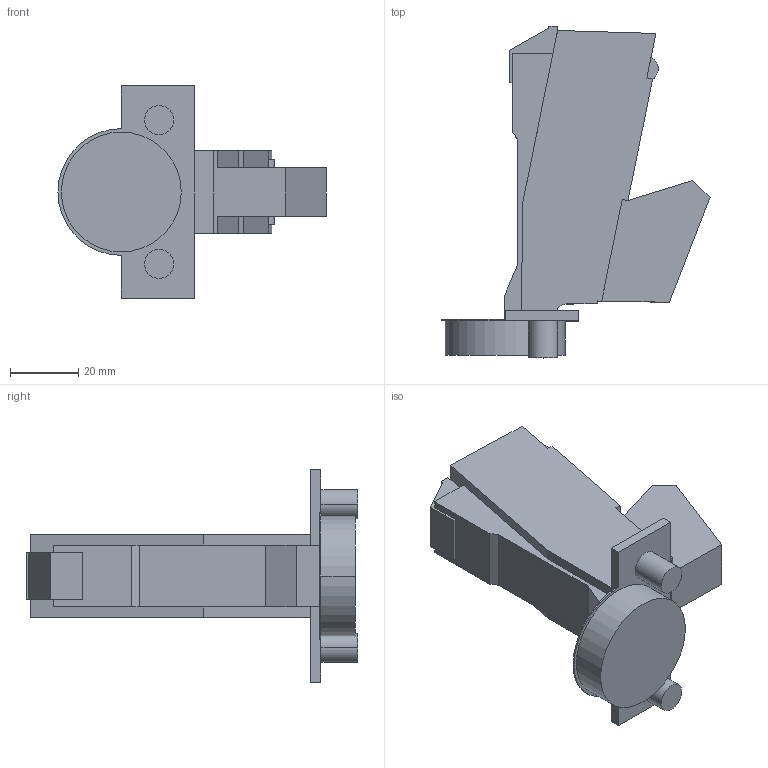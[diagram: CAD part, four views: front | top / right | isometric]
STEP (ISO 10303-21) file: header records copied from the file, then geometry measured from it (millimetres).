
FILE_DESCRIPTION (( 'STEP AP214' ), '1' );
FILE_NAME ('Scharnier T Click-on 160° G_BB, K00_Dübel.step', '2010-12-13T10:13:23', ( 'grass' ), ( '' ), 'SwSTEP 2.0', 'SolidWorks 2010', '' );
FILE_SCHEMA (( 'AUTOMOTIVE_DESIGN' ));
Length unit declared in the file: millimetre
Products named in the file (1): Scharnier T Click-on 160° G_BB, K00_Dübel
Bounding box: 78.27 x 96.89 x 62 mm (x, y, z)
Volume: 88962.6 mm3; surface area: 18613.4 mm2
Topology: 1 solids, 1 shells, 67 faces, 176 edges, 116 vertices
Faces by surface type: plane 54, cylinder 13
Entity records: 2078 total; most frequent: CARTESIAN_POINT 360, ORIENTED_EDGE 352, DIRECTION 338, EDGE_CURVE 176, LINE 150, VECTOR 150, VERTEX_POINT 116, AXIS2_PLACEMENT_3D 94
